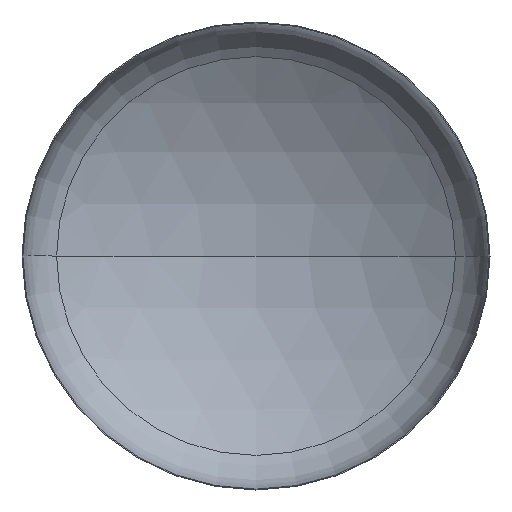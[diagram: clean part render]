
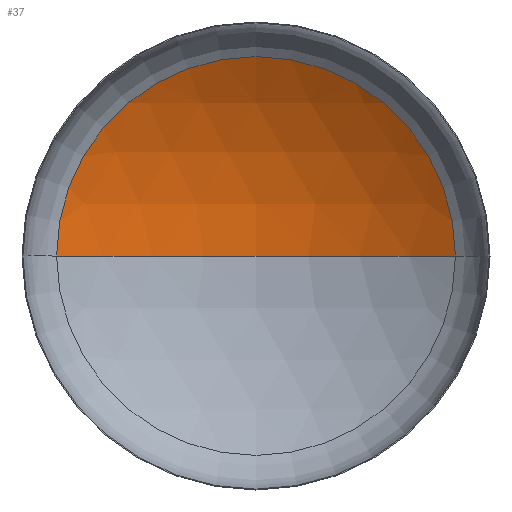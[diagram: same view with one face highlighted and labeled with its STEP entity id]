
A CAD part, front view. The second image highlights one B-rep face of the part: STEP entity #37.
In plain terms, the highlighted spherical face has radius 5600 mm.
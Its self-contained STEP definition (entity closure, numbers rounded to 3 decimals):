
#1 = DIRECTION ( 'NONE',  ( 1., 0., 0. ) ) ;
#11 = DIRECTION ( 'NONE',  ( 0., 0., 1. ) ) ;
#18 = SPHERICAL_SURFACE ( 'NONE', #122, 5600. ) ;
#37 = ADVANCED_FACE ( 'NONE', ( #146 ), #18, .F. ) ;
#38 = ORIENTED_EDGE ( 'NONE', *, *, #155, .F. ) ;
#50 = VERTEX_POINT ( 'NONE', #281 ) ;
#81 = AXIS2_PLACEMENT_3D ( 'NONE', #348, #11, #1 ) ;
#84 = AXIS2_PLACEMENT_3D ( 'NONE', #392, #266, #261 ) ;
#93 = AXIS2_PLACEMENT_3D ( 'NONE', #199, #203, #182 ) ;
#112 = EDGE_LOOP ( 'NONE', ( #38, #372, #141 ) ) ;
#115 = VERTEX_POINT ( 'NONE', #241 ) ;
#122 = AXIS2_PLACEMENT_3D ( 'NONE', #365, #284, #282 ) ;
#141 = ORIENTED_EDGE ( 'NONE', *, *, #152, .T. ) ;
#146 = FACE_OUTER_BOUND ( 'NONE', #112, .T. ) ;
#152 = EDGE_CURVE ( 'NONE', #191, #50, #404, .T. ) ;
#153 = EDGE_CURVE ( 'NONE', #115, #191, #350, .T. ) ;
#155 = EDGE_CURVE ( 'NONE', #115, #50, #295, .T. ) ;
#182 = DIRECTION ( 'NONE',  ( 1., 0., 0. ) ) ;
#191 = VERTEX_POINT ( 'NONE', #237 ) ;
#199 = CARTESIAN_POINT ( 'NONE',  ( 0., 954.129, 0. ) ) ;
#203 = DIRECTION ( 'NONE',  ( 0., -1., 0. ) ) ;
#237 = CARTESIAN_POINT ( 'NONE',  ( 2982.124, 954.129, 0. ) ) ;
#241 = CARTESIAN_POINT ( 'NONE',  ( 0., 1814.199, 0. ) ) ;
#261 = DIRECTION ( 'NONE',  ( -1., 0., 0. ) ) ;
#266 = DIRECTION ( 'NONE',  ( 0., 0., -1. ) ) ;
#281 = CARTESIAN_POINT ( 'NONE',  ( -2982.124, 954.129, 0. ) ) ;
#282 = DIRECTION ( 'NONE',  ( -1., 0., 0. ) ) ;
#284 = DIRECTION ( 'NONE',  ( 0., 0., -1. ) ) ;
#295 = CIRCLE ( 'NONE', #81, 5600. ) ;
#348 = CARTESIAN_POINT ( 'NONE',  ( 0., -3785.801, 0. ) ) ;
#350 = CIRCLE ( 'NONE', #84, 5600. ) ;
#365 = CARTESIAN_POINT ( 'NONE',  ( 0., -3785.801, 0. ) ) ;
#372 = ORIENTED_EDGE ( 'NONE', *, *, #153, .T. ) ;
#392 = CARTESIAN_POINT ( 'NONE',  ( 0., -3785.801, 0. ) ) ;
#404 = CIRCLE ( 'NONE', #93, 2982.124 ) ;
